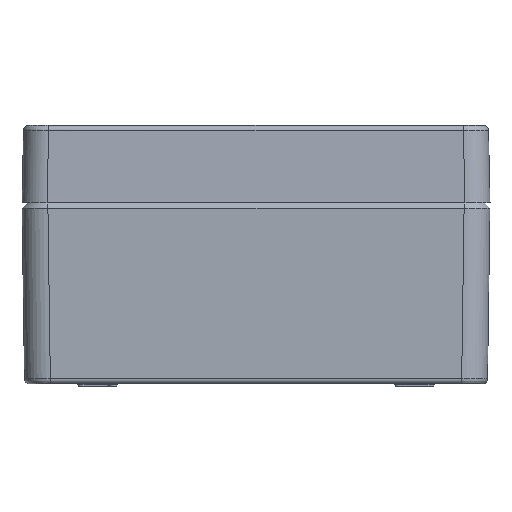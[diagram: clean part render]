
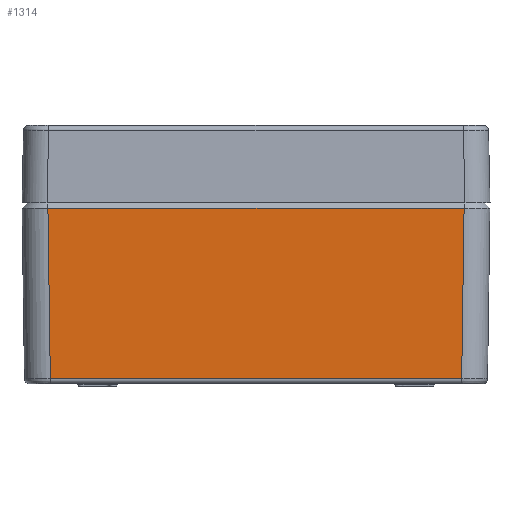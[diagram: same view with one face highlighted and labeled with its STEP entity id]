
A CAD part, left-side view. The second image highlights one B-rep face of the part: STEP entity #1314.
In plain terms, the highlighted planar face has unit normal (-1, 0, -0.014).
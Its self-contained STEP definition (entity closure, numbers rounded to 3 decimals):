
#527 = ORIENTED_EDGE ( 'NONE', *, *, #12547, .F. ) ;
#646 = ORIENTED_EDGE ( 'NONE', *, *, #10348, .F. ) ;
#661 = VECTOR ( 'NONE', #18043, 1000. ) ;
#1314 = ADVANCED_FACE ( 'NONE', ( #5643 ), #13447, .F. ) ;
#1379 = DIRECTION ( 'NONE',  ( 0.014, 0., -1. ) ) ;
#2821 = VECTOR ( 'NONE', #21115, 1000. ) ;
#2913 = VERTEX_POINT ( 'NONE', #15853 ) ;
#3833 = CARTESIAN_POINT ( 'NONE',  ( -140.472, 80.473, -2. ) ) ;
#4293 = LINE ( 'NONE', #7657, #13238 ) ;
#5166 = DIRECTION ( 'NONE',  ( 1., 0., 0.014 ) ) ;
#5643 = FACE_OUTER_BOUND ( 'NONE', #9833, .T. ) ;
#6109 = CARTESIAN_POINT ( 'NONE',  ( -140.011, -80.012, -35. ) ) ;
#7657 = CARTESIAN_POINT ( 'NONE',  ( -139.55, 79.551, -68.028 ) ) ;
#8149 = VERTEX_POINT ( 'NONE', #26584 ) ;
#8255 = LINE ( 'NONE', #16900, #2821 ) ;
#8724 = ORIENTED_EDGE ( 'NONE', *, *, #21745, .F. ) ;
#9833 = EDGE_LOOP ( 'NONE', ( #646, #527, #8724, #12326 ) ) ;
#10348 = EDGE_CURVE ( 'NONE', #2913, #16339, #4293, .T. ) ;
#12326 = ORIENTED_EDGE ( 'NONE', *, *, #18527, .F. ) ;
#12547 = EDGE_CURVE ( 'NONE', #14345, #2913, #14122, .T. ) ;
#13238 = VECTOR ( 'NONE', #21999, 1000. ) ;
#13447 = PLANE ( 'NONE',  #14312 ) ;
#13659 = CARTESIAN_POINT ( 'NONE',  ( -140.5, 0., 0. ) ) ;
#14122 = LINE ( 'NONE', #15887, #661 ) ;
#14277 = DIRECTION ( 'NONE',  ( 0.014, 0.014, -1. ) ) ;
#14312 = AXIS2_PLACEMENT_3D ( 'NONE', #13659, #5166, #1379 ) ;
#14345 = VERTEX_POINT ( 'NONE', #19261 ) ;
#15836 = LINE ( 'NONE', #6109, #25453 ) ;
#15853 = CARTESIAN_POINT ( 'NONE',  ( -139.55, 79.551, -68.028 ) ) ;
#15887 = CARTESIAN_POINT ( 'NONE',  ( -139.55, 0.011, -68.028 ) ) ;
#16339 = VERTEX_POINT ( 'NONE', #3833 ) ;
#16900 = CARTESIAN_POINT ( 'NONE',  ( -140.472, 0., -2. ) ) ;
#18043 = DIRECTION ( 'NONE',  ( 0., 1., 0. ) ) ;
#18527 = EDGE_CURVE ( 'NONE', #16339, #8149, #8255, .T. ) ;
#19261 = CARTESIAN_POINT ( 'NONE',  ( -139.55, -79.551, -68.028 ) ) ;
#21115 = DIRECTION ( 'NONE',  ( 0., -1., 0. ) ) ;
#21745 = EDGE_CURVE ( 'NONE', #8149, #14345, #15836, .T. ) ;
#21999 = DIRECTION ( 'NONE',  ( -0.014, 0.014, 1. ) ) ;
#25453 = VECTOR ( 'NONE', #14277, 1000. ) ;
#26584 = CARTESIAN_POINT ( 'NONE',  ( -140.472, -80.473, -2. ) ) ;
